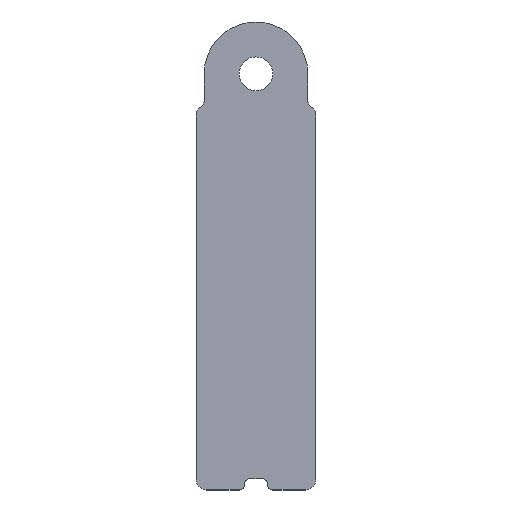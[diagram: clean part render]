
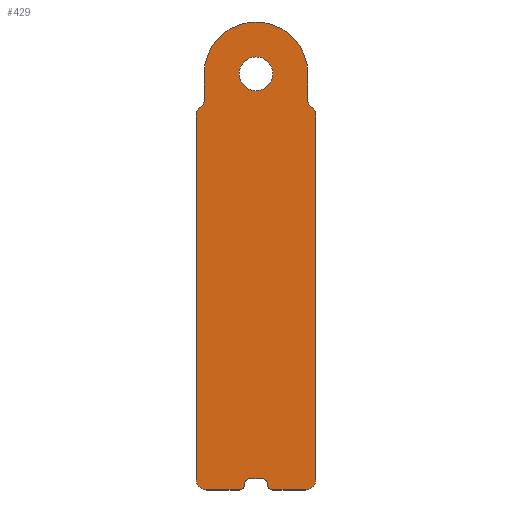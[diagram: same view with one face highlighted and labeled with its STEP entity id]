
A CAD part, top view. The second image highlights one B-rep face of the part: STEP entity #429.
In plain terms, the highlighted planar face has unit normal (0, 0, 1).
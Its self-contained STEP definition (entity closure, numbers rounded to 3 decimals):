
#16=FACE_BOUND('',#61,.T.);
#21=PLANE('',#482);
#36=FACE_OUTER_BOUND('',#60,.T.);
#60=EDGE_LOOP('',(#332,#333,#334,#335,#336,#337,#338,#339,#340,#341,#342,
#343,#344,#345,#346,#347,#348,#349,#350,#351));
#61=EDGE_LOOP('',(#352));
#87=LINE('',#692,#126);
#92=LINE('',#705,#131);
#95=LINE('',#714,#134);
#97=LINE('',#718,#136);
#98=LINE('',#722,#137);
#99=LINE('',#728,#138);
#100=LINE('',#732,#139);
#101=LINE('',#738,#140);
#102=LINE('',#740,#141);
#126=VECTOR('',#550,10.);
#131=VECTOR('',#565,10.);
#134=VECTOR('',#574,10.);
#136=VECTOR('',#578,10.);
#137=VECTOR('',#581,10.);
#138=VECTOR('',#586,10.);
#139=VECTOR('',#589,10.);
#140=VECTOR('',#594,10.);
#141=VECTOR('',#597,10.);
#154=CIRCLE('',#459,0.5);
#167=CIRCLE('',#475,0.5);
#168=CIRCLE('',#477,0.5);
#169=CIRCLE('',#480,0.5);
#170=CIRCLE('',#483,1.);
#171=CIRCLE('',#484,0.75);
#172=CIRCLE('',#485,0.75);
#173=CIRCLE('',#486,4.9);
#174=CIRCLE('',#487,0.75);
#175=CIRCLE('',#488,0.75);
#176=CIRCLE('',#489,1.);
#177=CIRCLE('',#490,1.6);
#178=VERTEX_POINT('',#642);
#179=VERTEX_POINT('',#643);
#201=VERTEX_POINT('',#691);
#202=VERTEX_POINT('',#695);
#203=VERTEX_POINT('',#699);
#204=VERTEX_POINT('',#701);
#205=VERTEX_POINT('',#707);
#206=VERTEX_POINT('',#708);
#207=VERTEX_POINT('',#713);
#208=VERTEX_POINT('',#717);
#209=VERTEX_POINT('',#719);
#210=VERTEX_POINT('',#721);
#211=VERTEX_POINT('',#723);
#212=VERTEX_POINT('',#725);
#213=VERTEX_POINT('',#727);
#214=VERTEX_POINT('',#729);
#215=VERTEX_POINT('',#731);
#216=VERTEX_POINT('',#733);
#217=VERTEX_POINT('',#735);
#218=VERTEX_POINT('',#737);
#219=VERTEX_POINT('',#741);
#220=EDGE_CURVE('',#178,#179,#154,.T.);
#244=EDGE_CURVE('',#201,#179,#87,.T.);
#246=EDGE_CURVE('',#201,#202,#167,.T.);
#249=EDGE_CURVE('',#203,#204,#168,.T.);
#251=EDGE_CURVE('',#203,#202,#92,.T.);
#252=EDGE_CURVE('',#205,#206,#169,.T.);
#255=EDGE_CURVE('',#207,#206,#95,.T.);
#257=EDGE_CURVE('',#178,#208,#97,.T.);
#258=EDGE_CURVE('',#209,#208,#170,.T.);
#259=EDGE_CURVE('',#209,#210,#98,.T.);
#260=EDGE_CURVE('',#211,#210,#171,.T.);
#261=EDGE_CURVE('',#212,#211,#172,.T.);
#262=EDGE_CURVE('',#212,#213,#99,.T.);
#263=EDGE_CURVE('',#213,#214,#173,.T.);
#264=EDGE_CURVE('',#214,#215,#100,.T.);
#265=EDGE_CURVE('',#216,#215,#174,.T.);
#266=EDGE_CURVE('',#217,#216,#175,.T.);
#267=EDGE_CURVE('',#217,#218,#101,.T.);
#268=EDGE_CURVE('',#207,#218,#176,.T.);
#269=EDGE_CURVE('',#205,#204,#102,.T.);
#270=EDGE_CURVE('',#219,#219,#177,.T.);
#332=ORIENTED_EDGE('',*,*,#220,.F.);
#333=ORIENTED_EDGE('',*,*,#257,.T.);
#334=ORIENTED_EDGE('',*,*,#258,.F.);
#335=ORIENTED_EDGE('',*,*,#259,.T.);
#336=ORIENTED_EDGE('',*,*,#260,.F.);
#337=ORIENTED_EDGE('',*,*,#261,.F.);
#338=ORIENTED_EDGE('',*,*,#262,.T.);
#339=ORIENTED_EDGE('',*,*,#263,.T.);
#340=ORIENTED_EDGE('',*,*,#264,.T.);
#341=ORIENTED_EDGE('',*,*,#265,.F.);
#342=ORIENTED_EDGE('',*,*,#266,.F.);
#343=ORIENTED_EDGE('',*,*,#267,.T.);
#344=ORIENTED_EDGE('',*,*,#268,.F.);
#345=ORIENTED_EDGE('',*,*,#255,.T.);
#346=ORIENTED_EDGE('',*,*,#252,.F.);
#347=ORIENTED_EDGE('',*,*,#269,.T.);
#348=ORIENTED_EDGE('',*,*,#249,.F.);
#349=ORIENTED_EDGE('',*,*,#251,.T.);
#350=ORIENTED_EDGE('',*,*,#246,.F.);
#351=ORIENTED_EDGE('',*,*,#244,.T.);
#352=ORIENTED_EDGE('',*,*,#270,.T.);
#429=ADVANCED_FACE('',(#36,#16),#21,.T.);
#459=AXIS2_PLACEMENT_3D('',#644,#509,#510);
#475=AXIS2_PLACEMENT_3D('',#696,#554,#555);
#477=AXIS2_PLACEMENT_3D('',#702,#560,#561);
#480=AXIS2_PLACEMENT_3D('',#709,#568,#569);
#482=AXIS2_PLACEMENT_3D('',#716,#576,#577);
#483=AXIS2_PLACEMENT_3D('',#720,#579,#580);
#484=AXIS2_PLACEMENT_3D('',#724,#582,#583);
#485=AXIS2_PLACEMENT_3D('',#726,#584,#585);
#486=AXIS2_PLACEMENT_3D('',#730,#587,#588);
#487=AXIS2_PLACEMENT_3D('',#734,#590,#591);
#488=AXIS2_PLACEMENT_3D('',#736,#592,#593);
#489=AXIS2_PLACEMENT_3D('',#739,#595,#596);
#490=AXIS2_PLACEMENT_3D('',#742,#598,#599);
#509=DIRECTION('center_axis',(0.,0.,-1.));
#510=DIRECTION('ref_axis',(-0.707,-0.707,0.));
#550=DIRECTION('',(0.,-1.,0.));
#554=DIRECTION('center_axis',(0.,0.,1.));
#555=DIRECTION('ref_axis',(0.707,0.707,0.));
#560=DIRECTION('center_axis',(0.,0.,1.));
#561=DIRECTION('ref_axis',(-0.707,0.707,0.));
#565=DIRECTION('',(1.,0.,0.));
#568=DIRECTION('center_axis',(0.,0.,-1.));
#569=DIRECTION('ref_axis',(0.707,-0.707,0.));
#574=DIRECTION('',(1.,0.,0.));
#576=DIRECTION('center_axis',(0.,0.,1.));
#577=DIRECTION('ref_axis',(1.,0.,0.));
#578=DIRECTION('',(1.,0.,0.));
#579=DIRECTION('center_axis',(0.,0.,-1.));
#580=DIRECTION('ref_axis',(0.707,-0.707,0.));
#581=DIRECTION('',(0.,1.,0.));
#582=DIRECTION('center_axis',(0.,0.,-1.));
#583=DIRECTION('ref_axis',(0.866,0.5,0.));
#584=DIRECTION('center_axis',(0.,0.,1.));
#585=DIRECTION('ref_axis',(-0.707,-0.707,0.));
#586=DIRECTION('',(0.,1.,0.));
#587=DIRECTION('center_axis',(0.,0.,1.));
#588=DIRECTION('ref_axis',(1.,0.,0.));
#589=DIRECTION('',(0.,-1.,0.));
#590=DIRECTION('center_axis',(0.,0.,1.));
#591=DIRECTION('ref_axis',(0.707,-0.707,0.));
#592=DIRECTION('center_axis',(0.,0.,-1.));
#593=DIRECTION('ref_axis',(-0.866,0.5,0.));
#594=DIRECTION('',(0.,-1.,0.));
#595=DIRECTION('center_axis',(0.,0.,-1.));
#596=DIRECTION('ref_axis',(-0.707,-0.707,0.));
#597=DIRECTION('',(0.,1.,0.));
#598=DIRECTION('center_axis',(0.,0.,-1.));
#599=DIRECTION('ref_axis',(1.,0.,0.));
#642=CARTESIAN_POINT('',(1.6,-39.35,1.8));
#643=CARTESIAN_POINT('',(1.1,-38.85,1.8));
#644=CARTESIAN_POINT('Origin',(1.6,-38.85,1.8));
#691=CARTESIAN_POINT('',(1.1,-38.8,1.8));
#692=CARTESIAN_POINT('',(1.1,-38.3,1.8));
#695=CARTESIAN_POINT('',(0.6,-38.3,1.8));
#696=CARTESIAN_POINT('Origin',(0.6,-38.8,1.8));
#699=CARTESIAN_POINT('',(-0.6,-38.3,1.8));
#701=CARTESIAN_POINT('',(-1.1,-38.8,1.8));
#702=CARTESIAN_POINT('Origin',(-0.6,-38.8,1.8));
#705=CARTESIAN_POINT('',(-1.1,-38.3,1.8));
#707=CARTESIAN_POINT('',(-1.1,-38.85,1.8));
#708=CARTESIAN_POINT('',(-1.6,-39.35,1.8));
#709=CARTESIAN_POINT('Origin',(-1.6,-38.85,1.8));
#713=CARTESIAN_POINT('',(-4.65,-39.35,1.8));
#714=CARTESIAN_POINT('',(-5.65,-39.35,1.8));
#716=CARTESIAN_POINT('Origin',(0.,-17.225,1.8));
#717=CARTESIAN_POINT('',(4.65,-39.35,1.8));
#718=CARTESIAN_POINT('',(-5.65,-39.35,1.8));
#719=CARTESIAN_POINT('',(5.65,-38.35,1.8));
#720=CARTESIAN_POINT('Origin',(4.65,-38.35,1.8));
#721=CARTESIAN_POINT('',(5.65,-3.799,1.8));
#722=CARTESIAN_POINT('',(5.65,-3.25,1.8));
#723=CARTESIAN_POINT('',(5.275,-3.15,1.8));
#724=CARTESIAN_POINT('Origin',(4.9,-3.799,1.8));
#725=CARTESIAN_POINT('',(4.9,-2.5,1.8));
#726=CARTESIAN_POINT('Origin',(5.65,-2.5,1.8));
#727=CARTESIAN_POINT('',(4.9,0.,1.8));
#728=CARTESIAN_POINT('',(4.9,0.,1.8));
#729=CARTESIAN_POINT('',(-4.9,0.,1.8));
#730=CARTESIAN_POINT('Origin',(0.,0.,1.8));
#731=CARTESIAN_POINT('',(-4.9,-2.5,1.8));
#732=CARTESIAN_POINT('',(-4.9,0.,1.8));
#733=CARTESIAN_POINT('',(-5.275,-3.15,1.8));
#734=CARTESIAN_POINT('Origin',(-5.65,-2.5,1.8));
#735=CARTESIAN_POINT('',(-5.65,-3.799,1.8));
#736=CARTESIAN_POINT('Origin',(-4.9,-3.799,1.8));
#737=CARTESIAN_POINT('',(-5.65,-38.35,1.8));
#738=CARTESIAN_POINT('',(-5.65,-3.25,1.8));
#739=CARTESIAN_POINT('Origin',(-4.65,-38.35,1.8));
#740=CARTESIAN_POINT('',(-1.1,-39.35,1.8));
#741=CARTESIAN_POINT('',(-1.6,0.,1.8));
#742=CARTESIAN_POINT('Origin',(0.,0.,1.8));
